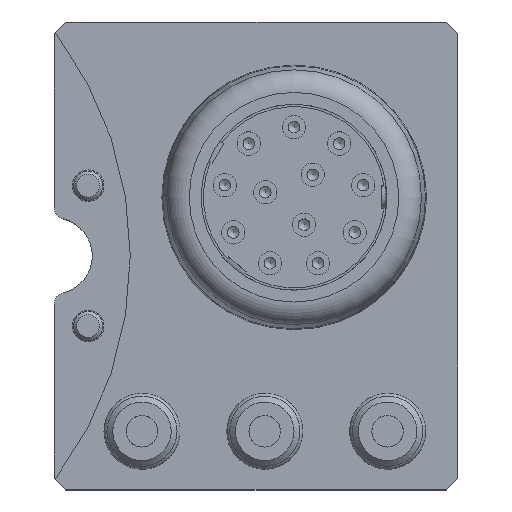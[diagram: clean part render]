
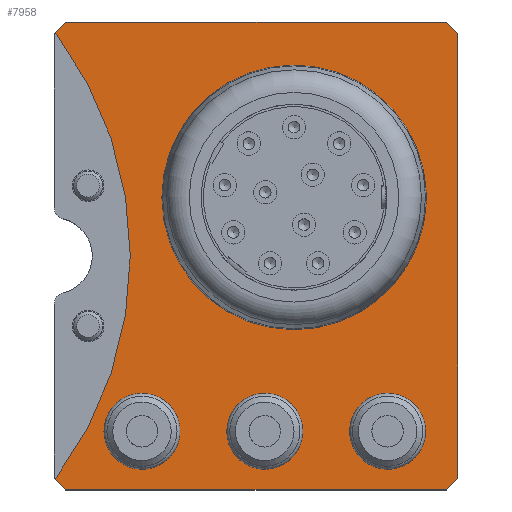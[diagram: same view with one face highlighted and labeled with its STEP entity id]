
A CAD part, top view. The second image highlights one B-rep face of the part: STEP entity #7958.
In plain terms, the highlighted planar face has unit normal (0, 0, 1).
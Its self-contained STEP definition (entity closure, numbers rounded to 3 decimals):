
#117=FACE_BOUND('',#1208,.T.);
#118=FACE_BOUND('',#1209,.T.);
#119=FACE_BOUND('',#1210,.T.);
#120=FACE_BOUND('',#1211,.T.);
#284=PLANE('',#8810);
#737=FACE_OUTER_BOUND('',#1207,.T.);
#1207=EDGE_LOOP('',(#6747,#6748,#6749,#6750,#6751,#6752,#6753,#6754));
#1208=EDGE_LOOP('',(#6755,#6756));
#1209=EDGE_LOOP('',(#6757,#6758));
#1210=EDGE_LOOP('',(#6759,#6760));
#1211=EDGE_LOOP('',(#6761,#6762));
#1745=CIRCLE('',#8710,3.);
#1746=CIRCLE('',#8711,3.);
#1756=CIRCLE('',#8727,3.);
#1757=CIRCLE('',#8728,3.);
#1762=CIRCLE('',#8736,3.);
#1763=CIRCLE('',#8737,3.);
#1779=CIRCLE('',#8767,11.3);
#1780=CIRCLE('',#8768,11.3);
#1808=CIRCLE('',#8811,31.6);
#2335=LINE('',#14816,#2854);
#2338=LINE('',#14821,#2857);
#2340=LINE('',#14827,#2859);
#2341=LINE('',#14829,#2860);
#2342=LINE('',#14831,#2861);
#2343=LINE('',#14833,#2862);
#2344=LINE('',#14834,#2863);
#2854=VECTOR('',#10927,10.);
#2857=VECTOR('',#10932,10.);
#2859=VECTOR('',#10938,10.);
#2860=VECTOR('',#10939,10.);
#2861=VECTOR('',#10940,10.);
#2862=VECTOR('',#10941,10.);
#2863=VECTOR('',#10942,10.);
#3520=VERTEX_POINT('',#14569);
#3521=VERTEX_POINT('',#14570);
#3531=VERTEX_POINT('',#14601);
#3532=VERTEX_POINT('',#14602);
#3537=VERTEX_POINT('',#14618);
#3538=VERTEX_POINT('',#14619);
#3557=VERTEX_POINT('',#14722);
#3558=VERTEX_POINT('',#14724);
#3590=VERTEX_POINT('',#14813);
#3591=VERTEX_POINT('',#14815);
#3592=VERTEX_POINT('',#14820);
#3593=VERTEX_POINT('',#14824);
#3594=VERTEX_POINT('',#14826);
#3595=VERTEX_POINT('',#14828);
#3596=VERTEX_POINT('',#14830);
#3597=VERTEX_POINT('',#14832);
#4572=EDGE_CURVE('',#3520,#3521,#1745,.T.);
#4573=EDGE_CURVE('',#3521,#3520,#1746,.T.);
#4587=EDGE_CURVE('',#3531,#3532,#1756,.T.);
#4588=EDGE_CURVE('',#3532,#3531,#1757,.T.);
#4595=EDGE_CURVE('',#3537,#3538,#1762,.T.);
#4596=EDGE_CURVE('',#3538,#3537,#1763,.T.);
#4626=EDGE_CURVE('',#3558,#3557,#1779,.T.);
#4627=EDGE_CURVE('',#3557,#3558,#1780,.T.);
#4671=EDGE_CURVE('',#3590,#3591,#2335,.T.);
#4674=EDGE_CURVE('',#3591,#3592,#2338,.T.);
#4676=EDGE_CURVE('',#3590,#3593,#1808,.T.);
#4677=EDGE_CURVE('',#3594,#3593,#2340,.T.);
#4678=EDGE_CURVE('',#3595,#3594,#2341,.T.);
#4679=EDGE_CURVE('',#3596,#3595,#2342,.T.);
#4680=EDGE_CURVE('',#3597,#3596,#2343,.T.);
#4681=EDGE_CURVE('',#3592,#3597,#2344,.T.);
#6747=ORIENTED_EDGE('',*,*,#4671,.F.);
#6748=ORIENTED_EDGE('',*,*,#4676,.T.);
#6749=ORIENTED_EDGE('',*,*,#4677,.F.);
#6750=ORIENTED_EDGE('',*,*,#4678,.F.);
#6751=ORIENTED_EDGE('',*,*,#4679,.F.);
#6752=ORIENTED_EDGE('',*,*,#4680,.F.);
#6753=ORIENTED_EDGE('',*,*,#4681,.F.);
#6754=ORIENTED_EDGE('',*,*,#4674,.F.);
#6755=ORIENTED_EDGE('',*,*,#4595,.T.);
#6756=ORIENTED_EDGE('',*,*,#4596,.T.);
#6757=ORIENTED_EDGE('',*,*,#4587,.T.);
#6758=ORIENTED_EDGE('',*,*,#4588,.T.);
#6759=ORIENTED_EDGE('',*,*,#4572,.T.);
#6760=ORIENTED_EDGE('',*,*,#4573,.T.);
#6761=ORIENTED_EDGE('',*,*,#4626,.T.);
#6762=ORIENTED_EDGE('',*,*,#4627,.T.);
#7958=ADVANCED_FACE('',(#737,#117,#118,#119,#120),#284,.T.);
#8710=AXIS2_PLACEMENT_3D('',#14571,#10696,#10697);
#8711=AXIS2_PLACEMENT_3D('',#14572,#10698,#10699);
#8727=AXIS2_PLACEMENT_3D('',#14603,#10734,#10735);
#8728=AXIS2_PLACEMENT_3D('',#14604,#10736,#10737);
#8736=AXIS2_PLACEMENT_3D('',#14620,#10754,#10755);
#8737=AXIS2_PLACEMENT_3D('',#14621,#10756,#10757);
#8767=AXIS2_PLACEMENT_3D('',#14725,#10827,#10828);
#8768=AXIS2_PLACEMENT_3D('',#14726,#10829,#10830);
#8810=AXIS2_PLACEMENT_3D('',#14823,#10934,#10935);
#8811=AXIS2_PLACEMENT_3D('',#14825,#10936,#10937);
#10696=DIRECTION('center_axis',(0.,0.,-1.));
#10697=DIRECTION('ref_axis',(-1.,0.,0.));
#10698=DIRECTION('center_axis',(0.,0.,-1.));
#10699=DIRECTION('ref_axis',(-1.,0.,0.));
#10734=DIRECTION('center_axis',(0.,0.,-1.));
#10735=DIRECTION('ref_axis',(-1.,0.,0.));
#10736=DIRECTION('center_axis',(0.,0.,-1.));
#10737=DIRECTION('ref_axis',(-1.,0.,0.));
#10754=DIRECTION('center_axis',(0.,0.,-1.));
#10755=DIRECTION('ref_axis',(-1.,0.,0.));
#10756=DIRECTION('center_axis',(0.,0.,-1.));
#10757=DIRECTION('ref_axis',(-1.,0.,0.));
#10827=DIRECTION('center_axis',(0.,0.,-1.));
#10828=DIRECTION('ref_axis',(1.,0.,0.));
#10829=DIRECTION('center_axis',(0.,0.,-1.));
#10830=DIRECTION('ref_axis',(1.,0.,0.));
#10927=DIRECTION('',(0.707,0.707,0.));
#10932=DIRECTION('',(1.,0.,0.));
#10934=DIRECTION('center_axis',(0.,0.,1.));
#10935=DIRECTION('ref_axis',(1.,0.,0.));
#10936=DIRECTION('center_axis',(0.,0.,-1.));
#10937=DIRECTION('ref_axis',(-1.,0.,0.));
#10938=DIRECTION('',(-0.707,0.707,0.));
#10939=DIRECTION('',(-1.,0.,0.));
#10940=DIRECTION('',(-0.707,-0.707,0.));
#10941=DIRECTION('',(0.,-1.,0.));
#10942=DIRECTION('',(0.707,-0.707,0.));
#14569=CARTESIAN_POINT('',(-9.,-15.,0.));
#14570=CARTESIAN_POINT('',(-3.,-15.,0.));
#14571=CARTESIAN_POINT('Origin',(-6.,-15.,0.));
#14572=CARTESIAN_POINT('Origin',(-6.,-15.,0.));
#14601=CARTESIAN_POINT('',(-19.5,-15.,0.));
#14602=CARTESIAN_POINT('',(-13.5,-15.,0.));
#14603=CARTESIAN_POINT('Origin',(-16.5,-15.,0.));
#14604=CARTESIAN_POINT('Origin',(-16.5,-15.,0.));
#14618=CARTESIAN_POINT('',(-30.,-15.,0.));
#14619=CARTESIAN_POINT('',(-24.,-15.,0.));
#14620=CARTESIAN_POINT('Origin',(-27.,-15.,0.));
#14621=CARTESIAN_POINT('Origin',(-27.,-15.,0.));
#14722=CARTESIAN_POINT('',(-25.3,5.,0.));
#14724=CARTESIAN_POINT('',(-2.7,5.,0.));
#14725=CARTESIAN_POINT('Origin',(-14.,5.,0.));
#14726=CARTESIAN_POINT('Origin',(-14.,5.,0.));
#14813=CARTESIAN_POINT('',(-34.415,19.085,0.));
#14815=CARTESIAN_POINT('',(-33.5,20.,0.));
#14816=CARTESIAN_POINT('',(-34.688,18.813,0.));
#14820=CARTESIAN_POINT('',(-1.,20.,0.));
#14821=CARTESIAN_POINT('',(-34.5,20.,0.));
#14823=CARTESIAN_POINT('Origin',(-17.25,0.,0.));
#14824=CARTESIAN_POINT('',(-34.415,-19.085,0.));
#14825=CARTESIAN_POINT('Origin',(-59.6,0.,0.));
#14826=CARTESIAN_POINT('',(-33.5,-20.,0.));
#14827=CARTESIAN_POINT('',(-34.688,-18.813,0.));
#14828=CARTESIAN_POINT('',(-1.,-20.,0.));
#14829=CARTESIAN_POINT('',(0.,-20.,0.));
#14830=CARTESIAN_POINT('',(0.,-19.,0.));
#14831=CARTESIAN_POINT('',(0.187,-18.813,0.));
#14832=CARTESIAN_POINT('',(0.,19.,0.));
#14833=CARTESIAN_POINT('',(0.,20.,0.));
#14834=CARTESIAN_POINT('',(0.187,18.813,0.));
